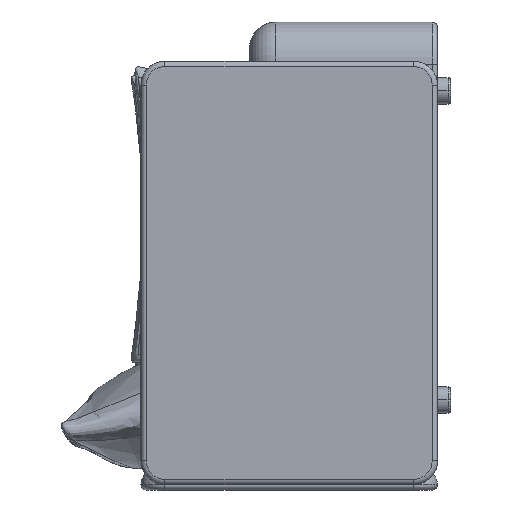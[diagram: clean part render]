
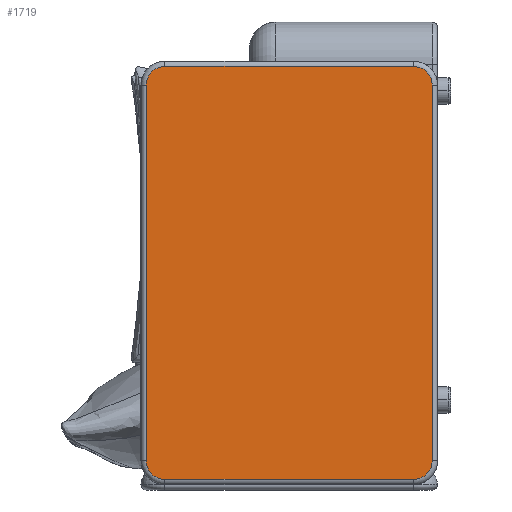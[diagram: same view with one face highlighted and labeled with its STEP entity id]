
A CAD part, left-side view. The second image highlights one B-rep face of the part: STEP entity #1719.
In plain terms, the highlighted planar face has unit normal (-1, 0, 0).
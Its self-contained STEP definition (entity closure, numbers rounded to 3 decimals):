
#28 = ORIENTED_EDGE ( 'NONE', *, *, #3229, .T. ) ;
#629 = ORIENTED_EDGE ( 'NONE', *, *, #12939, .T. ) ;
#675 = DIRECTION ( 'NONE',  ( 0., 0., -1. ) ) ;
#719 = EDGE_CURVE ( 'NONE', #8502, #6605, #9697, .T. ) ;
#1313 = ORIENTED_EDGE ( 'NONE', *, *, #719, .T. ) ;
#1532 = CIRCLE ( 'NONE', #3770, 35. ) ;
#1719 = ADVANCED_FACE ( 'NONE', ( #9702 ), #16161, .F. ) ;
#2369 = EDGE_CURVE ( 'NONE', #2602, #7214, #4197, .T. ) ;
#2390 = DIRECTION ( 'NONE',  ( -1., 0., 0. ) ) ;
#2602 = VERTEX_POINT ( 'NONE', #14786 ) ;
#2617 = CARTESIAN_POINT ( 'NONE',  ( -890., 70., 355. ) ) ;
#2832 = AXIS2_PLACEMENT_3D ( 'NONE', #8867, #2390, #11492 ) ;
#2875 = CARTESIAN_POINT ( 'NONE',  ( -890., 35., 355. ) ) ;
#2924 = CARTESIAN_POINT ( 'NONE',  ( -890., 575., -355. ) ) ;
#2957 = DIRECTION ( 'NONE',  ( 1., 0., 0. ) ) ;
#3120 = AXIS2_PLACEMENT_3D ( 'NONE', #6148, #7548, #10269 ) ;
#3229 = EDGE_CURVE ( 'NONE', #7214, #6580, #17102, .T. ) ;
#3253 = VERTEX_POINT ( 'NONE', #5296 ) ;
#3673 = VERTEX_POINT ( 'NONE', #3926 ) ;
#3770 = AXIS2_PLACEMENT_3D ( 'NONE', #5186, #10526, #3874 ) ;
#3799 = ORIENTED_EDGE ( 'NONE', *, *, #12904, .T. ) ;
#3813 = CARTESIAN_POINT ( 'NONE',  ( -890., 540., 390. ) ) ;
#3874 = DIRECTION ( 'NONE',  ( 0., 0., -1. ) ) ;
#3926 = CARTESIAN_POINT ( 'NONE',  ( -890., 35., -355. ) ) ;
#3958 = VECTOR ( 'NONE', #675, 1000. ) ;
#4014 = ORIENTED_EDGE ( 'NONE', *, *, #13444, .T. ) ;
#4053 = DIRECTION ( 'NONE',  ( -1., 0., 0. ) ) ;
#4197 = CIRCLE ( 'NONE', #12861, 35. ) ;
#4310 = CARTESIAN_POINT ( 'NONE',  ( -890., 575., 355. ) ) ;
#4444 = DIRECTION ( 'NONE',  ( 0., 0., 1. ) ) ;
#4792 = CARTESIAN_POINT ( 'NONE',  ( -890., 70., -390. ) ) ;
#5186 = CARTESIAN_POINT ( 'NONE',  ( -890., 70., -355. ) ) ;
#5296 = CARTESIAN_POINT ( 'NONE',  ( -890., 70., -390. ) ) ;
#6148 = CARTESIAN_POINT ( 'NONE',  ( -890., 540., 355. ) ) ;
#6580 = VERTEX_POINT ( 'NONE', #11953 ) ;
#6605 = VERTEX_POINT ( 'NONE', #2924 ) ;
#6982 = CARTESIAN_POINT ( 'NONE',  ( -890., 575., -355. ) ) ;
#7214 = VERTEX_POINT ( 'NONE', #8702 ) ;
#7548 = DIRECTION ( 'NONE',  ( -1., 0., 0. ) ) ;
#7825 = ORIENTED_EDGE ( 'NONE', *, *, #2369, .T. ) ;
#8502 = VERTEX_POINT ( 'NONE', #4310 ) ;
#8702 = CARTESIAN_POINT ( 'NONE',  ( -890., 70., 390. ) ) ;
#8867 = CARTESIAN_POINT ( 'NONE',  ( -890., 540., -355. ) ) ;
#8881 = VERTEX_POINT ( 'NONE', #12090 ) ;
#9510 = VECTOR ( 'NONE', #13184, 1000. ) ;
#9697 = LINE ( 'NONE', #6982, #3958 ) ;
#9702 = FACE_OUTER_BOUND ( 'NONE', #16343, .T. ) ;
#9735 = ORIENTED_EDGE ( 'NONE', *, *, #15677, .T. ) ;
#9751 = CARTESIAN_POINT ( 'NONE',  ( -890., 70., 355. ) ) ;
#10269 = DIRECTION ( 'NONE',  ( 0., 0., -1. ) ) ;
#10526 = DIRECTION ( 'NONE',  ( -1., 0., 0. ) ) ;
#10853 = EDGE_CURVE ( 'NONE', #3673, #2602, #11110, .T. ) ;
#11110 = LINE ( 'NONE', #2875, #13194 ) ;
#11492 = DIRECTION ( 'NONE',  ( 0., 0., -1. ) ) ;
#11797 = DIRECTION ( 'NONE',  ( 0., -1., 0. ) ) ;
#11953 = CARTESIAN_POINT ( 'NONE',  ( -890., 540., 390. ) ) ;
#12090 = CARTESIAN_POINT ( 'NONE',  ( -890., 540., -390. ) ) ;
#12531 = ORIENTED_EDGE ( 'NONE', *, *, #10853, .T. ) ;
#12624 = CIRCLE ( 'NONE', #2832, 35. ) ;
#12861 = AXIS2_PLACEMENT_3D ( 'NONE', #9751, #4053, #13680 ) ;
#12904 = EDGE_CURVE ( 'NONE', #6605, #8881, #12624, .T. ) ;
#12939 = EDGE_CURVE ( 'NONE', #6580, #8502, #15402, .T. ) ;
#13184 = DIRECTION ( 'NONE',  ( 0., 1., 0. ) ) ;
#13194 = VECTOR ( 'NONE', #4444, 1000. ) ;
#13444 = EDGE_CURVE ( 'NONE', #8881, #3253, #15806, .T. ) ;
#13680 = DIRECTION ( 'NONE',  ( 0., 0., -1. ) ) ;
#13741 = VECTOR ( 'NONE', #11797, 1000. ) ;
#14786 = CARTESIAN_POINT ( 'NONE',  ( -890., 35., 355. ) ) ;
#15402 = CIRCLE ( 'NONE', #3120, 35. ) ;
#15677 = EDGE_CURVE ( 'NONE', #3253, #3673, #1532, .T. ) ;
#15806 = LINE ( 'NONE', #4792, #13741 ) ;
#16161 = PLANE ( 'NONE',  #16737 ) ;
#16248 = DIRECTION ( 'NONE',  ( 0., 0., -1. ) ) ;
#16343 = EDGE_LOOP ( 'NONE', ( #9735, #12531, #7825, #28, #629, #1313, #3799, #4014 ) ) ;
#16737 = AXIS2_PLACEMENT_3D ( 'NONE', #2617, #2957, #16248 ) ;
#17102 = LINE ( 'NONE', #3813, #9510 ) ;
